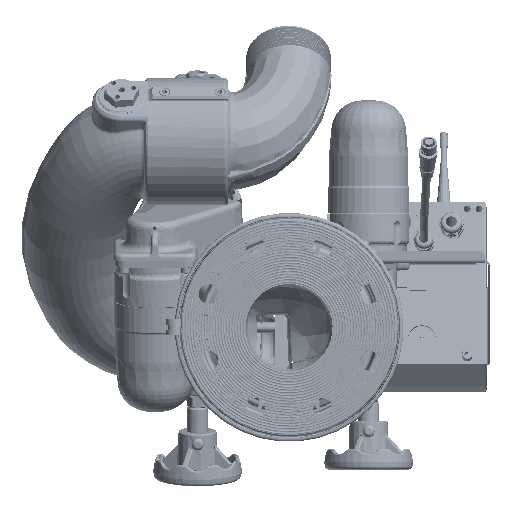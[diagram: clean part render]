
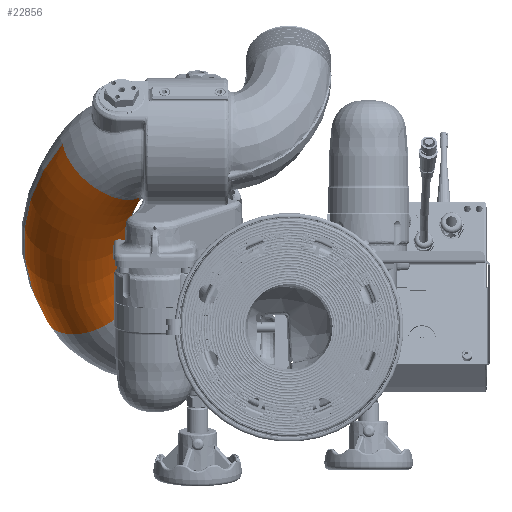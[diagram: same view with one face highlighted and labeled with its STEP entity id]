
A CAD part, front view. The second image highlights one B-rep face of the part: STEP entity #22856.
In plain terms, the highlighted toroidal (fillet/blend) face has major radius 177.8 mm and minor radius 47.625 mm.
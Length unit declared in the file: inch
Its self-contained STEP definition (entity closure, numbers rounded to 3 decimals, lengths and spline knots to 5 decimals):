
#953 = ORIENTED_EDGE ( 'NONE', *, *, #51584, .T. ) ;
#2624 = VERTEX_POINT ( 'NONE', #162850 ) ;
#2655 = DIRECTION ( 'NONE',  ( 0., 0.743, 0.669 ) ) ;
#7069 = CARTESIAN_POINT ( 'NONE',  ( -5.5373, 3.5328, 4.42919 ) ) ;
#7479 = CARTESIAN_POINT ( 'NONE',  ( -5.41936, 2.15188, 4.63673 ) ) ;
#12362 = VERTEX_POINT ( 'NONE', #7479 ) ;
#14255 = B_SPLINE_CURVE_WITH_KNOTS ( 'NONE', 3,
 ( #135793, #88417, #121240, #203264, #153218, #53389, #21209, #155329, #103767, #204696, #119123, #120520, #20514, #54792, #121943, #37993, #187266, #105207 ),
 .UNSPECIFIED., .F., .F.,
 ( 4, 2, 2, 2, 2, 2, 2, 2, 4 ),
 ( 0., 0.00678, 0.00847, 0.01017, 0.01355, 0.01694, 0.01864, 0.02033, 0.02711 ),
 .UNSPECIFIED. ) ;
#15521 = DIRECTION ( 'NONE',  ( 0., 0.669, -0.743 ) ) ;
#17254 = CARTESIAN_POINT ( 'NONE',  ( -5.41843, 2.10111, 4.64991 ) ) ;
#19849 = DIRECTION ( 'NONE',  ( 1., 0., 0. ) ) ;
#20514 = CARTESIAN_POINT ( 'NONE',  ( -5.39928, 2.50222, 4.59474 ) ) ;
#21209 = CARTESIAN_POINT ( 'NONE',  ( -5.35541, 2.82744, 4.64585 ) ) ;
#22303 = CARTESIAN_POINT ( 'NONE',  ( -5.50558, 3.46942, 4.48786 ) ) ;
#22856 = ADVANCED_FACE ( 'NONE', ( #104908 ), #195724, .T. ) ;
#28761 = AXIS2_PLACEMENT_3D ( 'NONE', #64495, #180878, #199730 ) ;
#37930 = ORIENTED_EDGE ( 'NONE', *, *, #54942, .T. ) ;
#37993 = CARTESIAN_POINT ( 'NONE',  ( -5.41625, 2.32588, 4.60064 ) ) ;
#41247 = CARTESIAN_POINT ( 'NONE',  ( -5.40584, 6.14448, 1.52792 ) ) ;
#42913 = VERTEX_POINT ( 'NONE', #186890 ) ;
#44880 = AXIS2_PLACEMENT_3D ( 'NONE', #198412, #98893, #15521 ) ;
#47407 = ORIENTED_EDGE ( 'NONE', *, *, #130445, .T. ) ;
#50226 = EDGE_CURVE ( 'NONE', #117112, #79698, #66380, .T. ) ;
#51584 = EDGE_CURVE ( 'NONE', #142034, #179931, #159904, .T. ) ;
#53389 = CARTESIAN_POINT ( 'NONE',  ( -5.35239, 2.8485, 4.65231 ) ) ;
#54792 = CARTESIAN_POINT ( 'NONE',  ( -5.40406, 2.458, 4.5946 ) ) ;
#54942 = EDGE_CURVE ( 'NONE', #12362, #142034, #187403, .T. ) ;
#55837 = CARTESIAN_POINT ( 'NONE',  ( -5.46455, 3.38815, 4.55827 ) ) ;
#60374 = AXIS2_PLACEMENT_3D ( 'NONE', #93966, #61111, #208792 ) ;
#61111 = DIRECTION ( 'NONE',  ( 0., 0.743, 0.669 ) ) ;
#61307 = CARTESIAN_POINT ( 'NONE',  ( -5.40584, 6.14448, 1.52792 ) ) ;
#64495 = CARTESIAN_POINT ( 'NONE',  ( -0.718, 4.91629, 3.26391 ) ) ;
#66380 = CIRCLE ( 'NONE', #60374, 5.14447 ) ;
#67593 = CARTESIAN_POINT ( 'NONE',  ( -5.41745, 2.05062, 4.66411 ) ) ;
#72039 = CARTESIAN_POINT ( 'NONE',  ( -5.52939, 3.51747, 4.44443 ) ) ;
#72472 = ORIENTED_EDGE ( 'NONE', *, *, #50226, .T. ) ;
#74885 = CARTESIAN_POINT ( 'NONE',  ( -5.54524, 3.54731, 4.41308 ) ) ;
#75908 = EDGE_CURVE ( 'NONE', #192408, #42913, #153190, .T. ) ;
#79698 = VERTEX_POINT ( 'NONE', #182436 ) ;
#86336 = CARTESIAN_POINT ( 'NONE',  ( -0.718, 4.73169, 3.09769 ) ) ;
#86688 = CARTESIAN_POINT ( 'NONE',  ( -6.61621, 2.39384, 6.06538 ) ) ;
#88417 = CARTESIAN_POINT ( 'NONE',  ( -5.31998, 3.09302, 4.7547 ) ) ;
#90212 = CARTESIAN_POINT ( 'NONE',  ( -5.44641, 3.35983, 4.58973 ) ) ;
#93064 = CARTESIAN_POINT ( 'NONE',  ( -5.41158, 6.13612, 1.53767 ) ) ;
#93966 = CARTESIAN_POINT ( 'NONE',  ( -0.718, 4.71599, 3.08356 ) ) ;
#95989 = CARTESIAN_POINT ( 'NONE',  ( -5.41642, 2.0004, 4.67926 ) ) ;
#98893 = DIRECTION ( 'NONE',  ( 0., -0.743, -0.669 ) ) ;
#103767 = CARTESIAN_POINT ( 'NONE',  ( -5.37072, 2.72118, 4.61862 ) ) ;
#104908 = FACE_OUTER_BOUND ( 'NONE', #145375, .T. ) ;
#105207 = CARTESIAN_POINT ( 'NONE',  ( -5.41936, 2.15188, 4.63673 ) ) ;
#108448 = CARTESIAN_POINT ( 'NONE',  ( -5.44641, 3.35983, 4.58973 ) ) ;
#114086 = ORIENTED_EDGE ( 'NONE', *, *, #75908, .T. ) ;
#116302 = ORIENTED_EDGE ( 'NONE', *, *, #138177, .T. ) ;
#117112 = VERTEX_POINT ( 'NONE', #108448 ) ;
#118799 = VERTEX_POINT ( 'NONE', #61307 ) ;
#118816 = DIRECTION ( 'NONE',  ( 0., 0.743, 0.669 ) ) ;
#119123 = CARTESIAN_POINT ( 'NONE',  ( -5.38862, 2.59089, 4.59922 ) ) ;
#120520 = CARTESIAN_POINT ( 'NONE',  ( -5.39671, 2.52444, 4.5954 ) ) ;
#121240 = CARTESIAN_POINT ( 'NONE',  ( -5.32953, 3.0143, 4.7144 ) ) ;
#121943 = CARTESIAN_POINT ( 'NONE',  ( -5.40627, 2.43594, 4.59512 ) ) ;
#122590 = EDGE_CURVE ( 'NONE', #42913, #117112, #169401, .T. ) ;
#128284 = CARTESIAN_POINT ( 'NONE',  ( -5.42296, 6.11901, 1.55691 ) ) ;
#130445 = EDGE_CURVE ( 'NONE', #79698, #12362, #14255, .T. ) ;
#131116 = EDGE_CURVE ( 'NONE', #118799, #2624, #211992, .T. ) ;
#135793 = CARTESIAN_POINT ( 'NONE',  ( -5.31335, 3.16853, 4.80219 ) ) ;
#137392 = B_SPLINE_CURVE_WITH_KNOTS ( 'NONE', 3,
 ( #41247, #93064, #141087, #191168 ),
 .UNSPECIFIED., .F., .F.,
 ( 4, 4 ),
 ( 0., 0.00107 ),
 .UNSPECIFIED. ) ;
#138177 = EDGE_CURVE ( 'NONE', #179931, #2624, #173198, .T. ) ;
#140412 = CARTESIAN_POINT ( 'NONE',  ( -5.51353, 3.48577, 4.47375 ) ) ;
#141087 = CARTESIAN_POINT ( 'NONE',  ( -5.41728, 6.12763, 1.54734 ) ) ;
#142034 = VERTEX_POINT ( 'NONE', #95989 ) ;
#142791 = CARTESIAN_POINT ( 'NONE',  ( -8.18026, 1.52816, 6.63106 ) ) ;
#143642 = ORIENTED_EDGE ( 'NONE', *, *, #172310, .T. ) ;
#145375 = EDGE_LOOP ( 'NONE', ( #72472, #47407, #37930, #953, #116302, #187091, #143642, #114086, #186851 ) ) ;
#150570 = CARTESIAN_POINT ( 'NONE',  ( -5.41936, 2.15188, 4.63673 ) ) ;
#153190 = CIRCLE ( 'NONE', #156197, 5.14153 ) ;
#153218 = CARTESIAN_POINT ( 'NONE',  ( -5.34647, 2.89039, 4.66635 ) ) ;
#155329 = CARTESIAN_POINT ( 'NONE',  ( -5.36453, 2.76395, 4.62816 ) ) ;
#156197 = AXIS2_PLACEMENT_3D ( 'NONE', #86336, #202595, #19849 ) ;
#159904 = CIRCLE ( 'NONE', #199994, 1.875 ) ;
#162850 = CARTESIAN_POINT ( 'NONE',  ( -8.79263, 7.15359, 0.38339 ) ) ;
#169401 = B_SPLINE_CURVE_WITH_KNOTS ( 'NONE', 3,
 ( #74885, #7069, #72039, #140412, #22303, #189040, #55837, #90212 ),
 .UNSPECIFIED., .F., .F.,
 ( 4, 2, 2, 4 ),
 ( 0., 0.00175, 0.00351, 0.00701 ),
 .UNSPECIFIED. ) ;
#169564 = DIRECTION ( 'NONE',  ( -0.539, 0.564, -0.626 ) ) ;
#172310 = EDGE_CURVE ( 'NONE', #118799, #192408, #137392, .T. ) ;
#173198 = CIRCLE ( 'NONE', #44880, 8.85621 ) ;
#179931 = VERTEX_POINT ( 'NONE', #142791 ) ;
#180878 = DIRECTION ( 'NONE',  ( 0., -0.743, -0.669 ) ) ;
#182436 = CARTESIAN_POINT ( 'NONE',  ( -5.31335, 3.16853, 4.80219 ) ) ;
#185386 = CARTESIAN_POINT ( 'NONE',  ( -5.41642, 2.0004, 4.67926 ) ) ;
#186851 = ORIENTED_EDGE ( 'NONE', *, *, #122590, .T. ) ;
#186890 = CARTESIAN_POINT ( 'NONE',  ( -5.54524, 3.54731, 4.41308 ) ) ;
#187091 = ORIENTED_EDGE ( 'NONE', *, *, #131116, .F. ) ;
#187266 = CARTESIAN_POINT ( 'NONE',  ( -5.42095, 2.23861, 4.61422 ) ) ;
#187403 = B_SPLINE_CURVE_WITH_KNOTS ( 'NONE', 3,
 ( #150570, #17254, #67593, #185386 ),
 .UNSPECIFIED., .F., .F.,
 ( 4, 4 ),
 ( 0., 0.004 ),
 .UNSPECIFIED. ) ;
#189040 = CARTESIAN_POINT ( 'NONE',  ( -5.48131, 3.42051, 4.53011 ) ) ;
#189321 = AXIS2_PLACEMENT_3D ( 'NONE', #202802, #202097, #2655 ) ;
#191168 = CARTESIAN_POINT ( 'NONE',  ( -5.42296, 6.11901, 1.55691 ) ) ;
#192408 = VERTEX_POINT ( 'NONE', #128284 ) ;
#195724 = TOROIDAL_SURFACE ( 'NONE', #28761, 7., 1.875 ) ;
#198412 = CARTESIAN_POINT ( 'NONE',  ( -0.718, 4.7195, 3.08671 ) ) ;
#199730 = DIRECTION ( 'NONE',  ( 0., -0.669, 0.743 ) ) ;
#199994 = AXIS2_PLACEMENT_3D ( 'NONE', #86688, #169564, #118816 ) ;
#202097 = DIRECTION ( 'NONE',  ( 0.411, 0.61, -0.678 ) ) ;
#202595 = DIRECTION ( 'NONE',  ( 0., 0.743, 0.669 ) ) ;
#202802 = CARTESIAN_POINT ( 'NONE',  ( -7.10024, 6.84021, 1.12718 ) ) ;
#203264 = CARTESIAN_POINT ( 'NONE',  ( -5.34356, 2.91126, 4.67395 ) ) ;
#204696 = CARTESIAN_POINT ( 'NONE',  ( -5.38276, 2.63465, 4.60415 ) ) ;
#208792 = DIRECTION ( 'NONE',  ( 0., 0.669, -0.743 ) ) ;
#211992 = CIRCLE ( 'NONE', #189321, 1.875 ) ;
